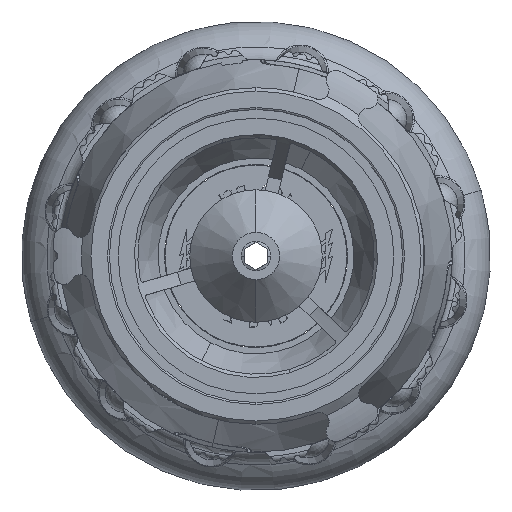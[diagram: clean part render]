
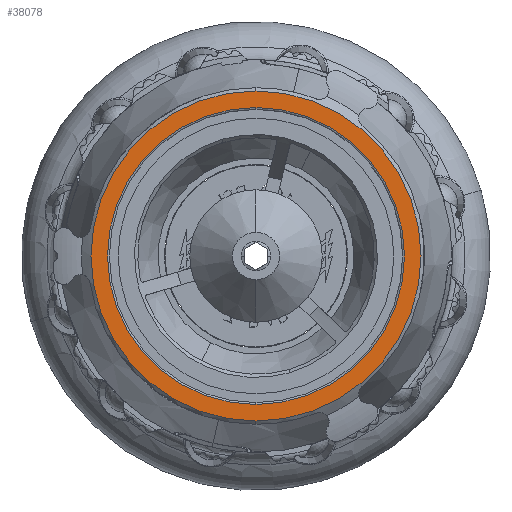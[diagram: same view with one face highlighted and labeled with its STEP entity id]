
A CAD part, left-side view. The second image highlights one B-rep face of the part: STEP entity #38078.
In plain terms, the highlighted planar face has unit normal (-1, 0, 0).
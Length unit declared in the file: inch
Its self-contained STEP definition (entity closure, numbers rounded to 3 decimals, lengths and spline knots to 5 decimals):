
#5418 = CARTESIAN_POINT ( 'NONE',  ( -8.51178, 0., -1.5701 ) ) ;
#6101 = VERTEX_POINT ( 'NONE', #48455 ) ;
#6458 = FACE_BOUND ( 'NONE', #14680, .T. ) ;
#8175 = CARTESIAN_POINT ( 'NONE',  ( -8.51178, 0., 0. ) ) ;
#8687 = DIRECTION ( 'NONE',  ( 0., 0., -1. ) ) ;
#9101 = CIRCLE ( 'NONE', #38353, 1.74515 ) ;
#10313 = CARTESIAN_POINT ( 'NONE',  ( -8.51178, 0., 0. ) ) ;
#14680 = EDGE_LOOP ( 'NONE', ( #53133, #22196 ) ) ;
#16180 = DIRECTION ( 'NONE',  ( 1., 0., 0. ) ) ;
#17563 = AXIS2_PLACEMENT_3D ( 'NONE', #10313, #40385, #18968 ) ;
#17904 = PLANE ( 'NONE',  #43077 ) ;
#18968 = DIRECTION ( 'NONE',  ( 0., 0., -1. ) ) ;
#19194 = CARTESIAN_POINT ( 'NONE',  ( -8.51178, 0., 0. ) ) ;
#20794 = EDGE_LOOP ( 'NONE', ( #53922, #41083 ) ) ;
#21166 = DIRECTION ( 'NONE',  ( 1., 0., 0. ) ) ;
#22196 = ORIENTED_EDGE ( 'NONE', *, *, #42640, .T. ) ;
#23146 = DIRECTION ( 'NONE',  ( 1., 0., 0. ) ) ;
#26639 = EDGE_CURVE ( 'NONE', #44859, #32603, #45290, .T. ) ;
#27007 = CIRCLE ( 'NONE', #43916, 1.5701 ) ;
#28749 = CIRCLE ( 'NONE', #31809, 1.5701 ) ;
#30686 = DIRECTION ( 'NONE',  ( 1., 0., 0. ) ) ;
#31809 = AXIS2_PLACEMENT_3D ( 'NONE', #8175, #21166, #47342 ) ;
#32603 = VERTEX_POINT ( 'NONE', #44768 ) ;
#33393 = FACE_OUTER_BOUND ( 'NONE', #20794, .T. ) ;
#35176 = CARTESIAN_POINT ( 'NONE',  ( -8.51178, 0., 1.74515 ) ) ;
#36316 = DIRECTION ( 'NONE',  ( 0., 0., -1. ) ) ;
#37413 = CARTESIAN_POINT ( 'NONE',  ( -8.51178, 0., 0. ) ) ;
#38078 = ADVANCED_FACE ( 'NONE', ( #33393, #6458 ), #17904, .F. ) ;
#38353 = AXIS2_PLACEMENT_3D ( 'NONE', #47079, #30686, #8687 ) ;
#40385 = DIRECTION ( 'NONE',  ( 1., 0., 0. ) ) ;
#41083 = ORIENTED_EDGE ( 'NONE', *, *, #26639, .F. ) ;
#42640 = EDGE_CURVE ( 'NONE', #6101, #46001, #27007, .T. ) ;
#43077 = AXIS2_PLACEMENT_3D ( 'NONE', #19194, #23146, #36316 ) ;
#43916 = AXIS2_PLACEMENT_3D ( 'NONE', #37413, #16180, #50828 ) ;
#44768 = CARTESIAN_POINT ( 'NONE',  ( -8.51178, 0., -1.74515 ) ) ;
#44859 = VERTEX_POINT ( 'NONE', #35176 ) ;
#45290 = CIRCLE ( 'NONE', #17563, 1.74515 ) ;
#46001 = VERTEX_POINT ( 'NONE', #5418 ) ;
#47079 = CARTESIAN_POINT ( 'NONE',  ( -8.51178, 0., 0. ) ) ;
#47342 = DIRECTION ( 'NONE',  ( 0., 0., -1. ) ) ;
#47564 = EDGE_CURVE ( 'NONE', #46001, #6101, #28749, .T. ) ;
#48455 = CARTESIAN_POINT ( 'NONE',  ( -8.51178, 0., 1.5701 ) ) ;
#50828 = DIRECTION ( 'NONE',  ( 0., 0., -1. ) ) ;
#52009 = EDGE_CURVE ( 'NONE', #32603, #44859, #9101, .T. ) ;
#53133 = ORIENTED_EDGE ( 'NONE', *, *, #47564, .T. ) ;
#53922 = ORIENTED_EDGE ( 'NONE', *, *, #52009, .F. ) ;
